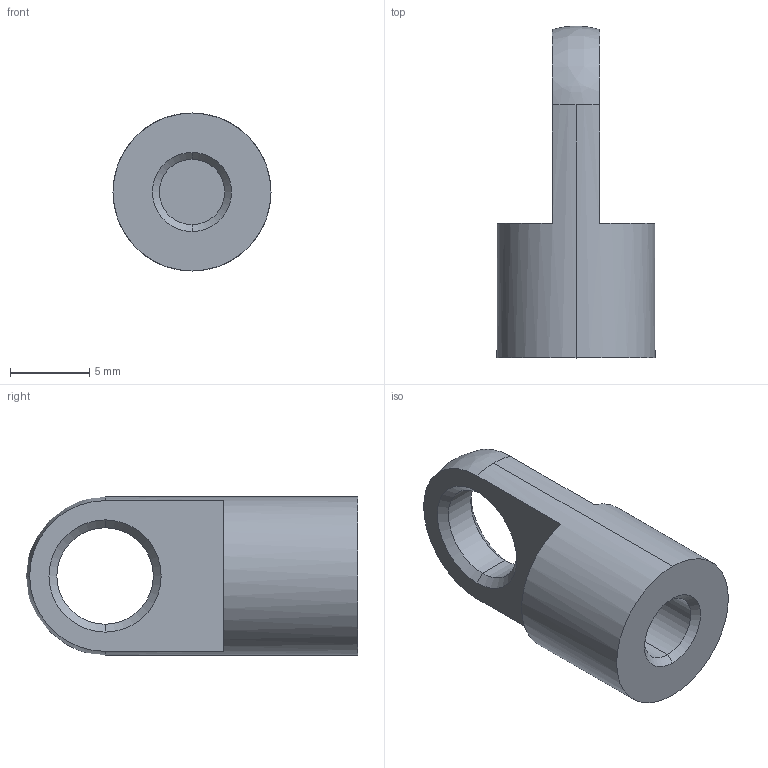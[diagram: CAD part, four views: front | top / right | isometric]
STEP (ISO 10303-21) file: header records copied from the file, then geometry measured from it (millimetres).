
FILE_DESCRIPTION (( 'STEP AP214' ), '1' );
FILE_NAME ('18.05A1SW3.STEP', '2017-10-21T09:56:50', ( '' ), ( '' ), 'SwSTEP 2.0', 'SolidWorks 2016', '' );
FILE_SCHEMA (( 'AUTOMOTIVE_DESIGN' ));
Length unit declared in the file: millimetre
Products named in the file (1): 18.05A1SW3
Bounding box: 10 x 21 x 10 mm (x, y, z)
Volume: 802 mm3; surface area: 791.3 mm2
Topology: 1 solids, 1 shells, 20 faces, 45 edges, 28 vertices
Faces by surface type: cylinder 6, cone 6, plane 6, bspline 2
Entity records: 628 total; most frequent: CARTESIAN_POINT 124, DIRECTION 110, ORIENTED_EDGE 90, AXIS2_PLACEMENT_3D 46, EDGE_CURVE 45, VERTEX_POINT 28, CIRCLE 27, EDGE_LOOP 23
